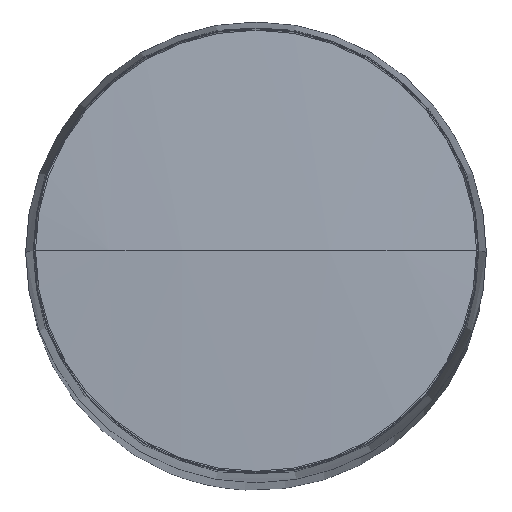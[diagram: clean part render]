
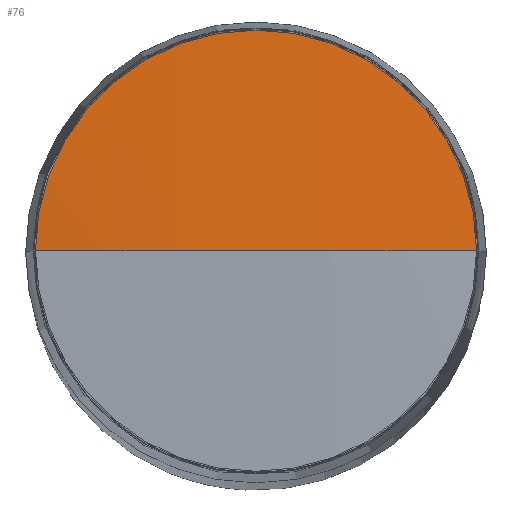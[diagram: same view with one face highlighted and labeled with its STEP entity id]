
A CAD part, top view. The second image highlights one B-rep face of the part: STEP entity #76.
In plain terms, the highlighted spherical face has radius 425.223 mm.
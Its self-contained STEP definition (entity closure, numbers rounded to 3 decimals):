
#1=CARTESIAN_POINT('',(0.,0.,6.013));
#2=DIRECTION('',(0.,0.,-1.));
#3=DIRECTION('',(-1.,0.,0.));
#4=AXIS2_PLACEMENT_3D('',#1,#2,#3);
#11=CARTESIAN_POINT('',(0.,0.,-418.223));
#12=DIRECTION('',(0.,-1.,0.));
#13=DIRECTION('',(0.,0.,1.));
#14=AXIS2_PLACEMENT_3D('',#11,#12,#13);
#16=CARTESIAN_POINT('',(0.,0.,-418.223));
#17=DIRECTION('',(0.,1.,0.));
#18=DIRECTION('',(0.,0.,1.));
#19=AXIS2_PLACEMENT_3D('',#16,#17,#18);
#49=CARTESIAN_POINT('',(0.,0.,7.));
#50=CARTESIAN_POINT('',(28.962,0.,6.013));
#51=VERTEX_POINT('',#49);
#52=VERTEX_POINT('',#50);
#53=CARTESIAN_POINT('',(-28.962,0.,6.013));
#54=VERTEX_POINT('',#53);
#63=CARTESIAN_POINT('',(0.,0.,-418.223));
#64=DIRECTION('',(0.,0.,-1.));
#65=DIRECTION('',(-1.,0.,0.));
#66=AXIS2_PLACEMENT_3D('',#63,#64,#65);
#67=SPHERICAL_SURFACE('',#66,425.223);
#69=ORIENTED_EDGE('',*,*,#68,.T.);
#71=ORIENTED_EDGE('',*,*,#70,.F.);
#73=ORIENTED_EDGE('',*,*,#72,.T.);
#74=EDGE_LOOP('',(#69,#71,#73));
#75=FACE_OUTER_BOUND('',#74,.F.);
#76=ADVANCED_FACE('',(#75),#67,.T.);
#5=CIRCLE('',#4,28.962);
#15=CIRCLE('',#14,425.223);
#20=CIRCLE('',#19,425.223);
#68=EDGE_CURVE('',#54,#52,#5,.T.);
#70=EDGE_CURVE('',#51,#52,#20,.T.);
#72=EDGE_CURVE('',#51,#54,#15,.T.);
